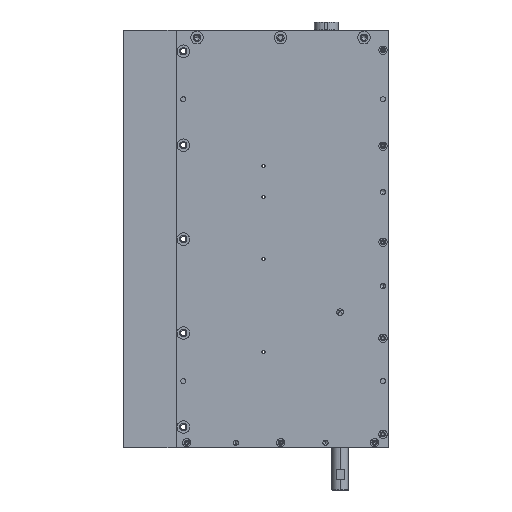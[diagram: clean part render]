
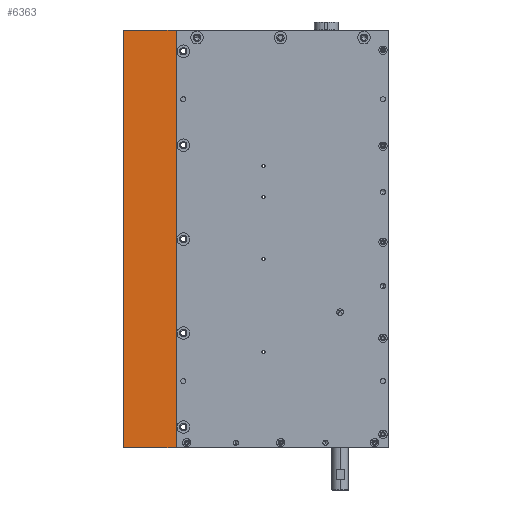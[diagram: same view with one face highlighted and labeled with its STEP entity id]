
A CAD part, left-side view. The second image highlights one B-rep face of the part: STEP entity #6363.
In plain terms, the highlighted planar face has unit normal (-1, 0, 0).
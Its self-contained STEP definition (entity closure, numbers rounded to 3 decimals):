
#347 = VECTOR ( 'NONE', #5386, 1000. ) ;
#1552 = DIRECTION ( 'NONE',  ( 0., 0., 1. ) ) ;
#2969 = VERTEX_POINT ( 'NONE', #14839 ) ;
#3999 = EDGE_CURVE ( 'NONE', #9355, #2969, #17566, .T. ) ;
#4874 = ORIENTED_EDGE ( 'NONE', *, *, #10958, .F. ) ;
#5386 = DIRECTION ( 'NONE',  ( 0., -1., 0. ) ) ;
#5805 = CARTESIAN_POINT ( 'NONE',  ( -3.2, 7.9, -193.65 ) ) ;
#6363 = ADVANCED_FACE ( 'NONE', ( #17199 ), #6591, .T. ) ;
#6490 = CARTESIAN_POINT ( 'NONE',  ( -3.2, 7.9, -193.65 ) ) ;
#6591 = PLANE ( 'NONE',  #16798 ) ;
#7321 = VECTOR ( 'NONE', #21018, 1000. ) ;
#7482 = VECTOR ( 'NONE', #1552, 1000. ) ;
#8166 = CARTESIAN_POINT ( 'NONE',  ( -3.2, 7.9, -187.3 ) ) ;
#8720 = CARTESIAN_POINT ( 'NONE',  ( -3.2, 7.9, -187.3 ) ) ;
#9061 = VERTEX_POINT ( 'NONE', #12685 ) ;
#9355 = VERTEX_POINT ( 'NONE', #5805 ) ;
#10816 = EDGE_LOOP ( 'NONE', ( #18344, #4874, #11342, #20203 ) ) ;
#10958 = EDGE_CURVE ( 'NONE', #9061, #2969, #13105, .T. ) ;
#11342 = ORIENTED_EDGE ( 'NONE', *, *, #12463, .F. ) ;
#12463 = EDGE_CURVE ( 'NONE', #17632, #9061, #20473, .T. ) ;
#12685 = CARTESIAN_POINT ( 'NONE',  ( -3.2, 32.9, 6.35 ) ) ;
#13105 = LINE ( 'NONE', #15128, #347 ) ;
#13140 = DIRECTION ( 'NONE',  ( 0., 0., 1. ) ) ;
#14501 = CARTESIAN_POINT ( 'NONE',  ( -3.2, 32.9, -187.3 ) ) ;
#14792 = DIRECTION ( 'NONE',  ( -1., 0., 0. ) ) ;
#14839 = CARTESIAN_POINT ( 'NONE',  ( -3.2, 7.9, 6.35 ) ) ;
#15128 = CARTESIAN_POINT ( 'NONE',  ( -3.2, 7.9, 6.35 ) ) ;
#15170 = EDGE_CURVE ( 'NONE', #9355, #17632, #19031, .T. ) ;
#15410 = CARTESIAN_POINT ( 'NONE',  ( -3.2, 32.9, -193.65 ) ) ;
#16798 = AXIS2_PLACEMENT_3D ( 'NONE', #8166, #14792, #17816 ) ;
#17199 = FACE_OUTER_BOUND ( 'NONE', #10816, .T. ) ;
#17566 = LINE ( 'NONE', #8720, #19381 ) ;
#17632 = VERTEX_POINT ( 'NONE', #15410 ) ;
#17816 = DIRECTION ( 'NONE',  ( 0., -1., 0. ) ) ;
#18344 = ORIENTED_EDGE ( 'NONE', *, *, #3999, .T. ) ;
#19031 = LINE ( 'NONE', #6490, #7321 ) ;
#19381 = VECTOR ( 'NONE', #13140, 1000. ) ;
#20203 = ORIENTED_EDGE ( 'NONE', *, *, #15170, .F. ) ;
#20473 = LINE ( 'NONE', #14501, #7482 ) ;
#21018 = DIRECTION ( 'NONE',  ( 0., 1., 0. ) ) ;
